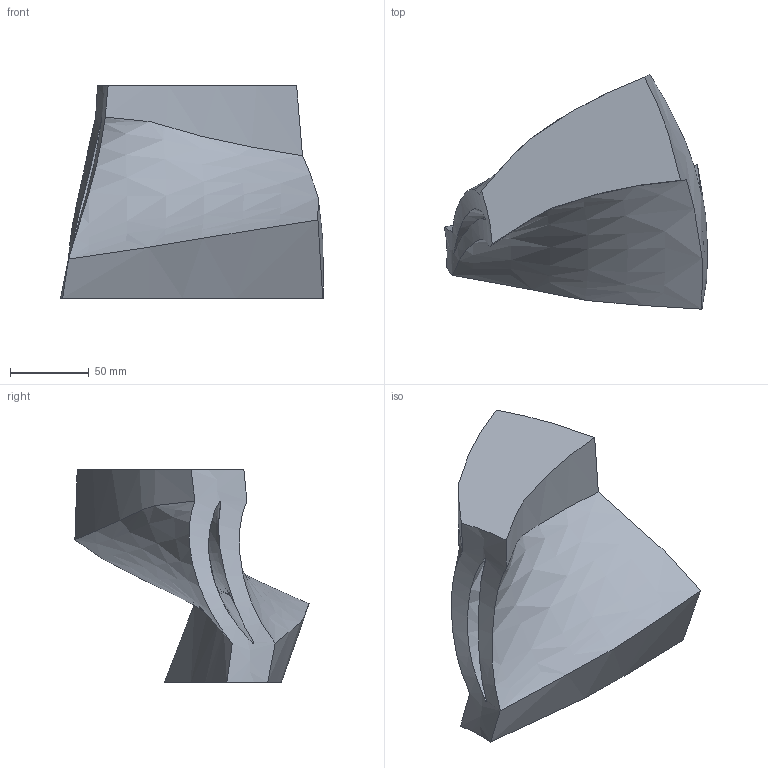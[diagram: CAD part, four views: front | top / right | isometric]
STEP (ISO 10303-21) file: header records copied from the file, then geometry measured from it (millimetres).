
FILE_DESCRIPTION (( 'STEP AP203' ), '1' );
FILE_NAME ('rotor67_tipGap.STEP', '2015-08-11T10:57:26', ( '' ), ( '' ), 'SwSTEP 2.0', 'SolidWorks 2015', '' );
FILE_SCHEMA (( 'CONFIG_CONTROL_DESIGN' ));
Length unit declared in the file: millimetre
Products named in the file (1): rotor67_tipGap
Bounding box: 166.96 x 148.71 x 134.84 mm (x, y, z)
Volume: 947235.9 mm3; surface area: 103295 mm2
Topology: 1 solids, 1 shells, 13 faces, 50 edges, 40 vertices
Faces by surface type: bspline 11, plane 2
Entity records: 6249 total; most frequent: CARTESIAN_POINT 5860, ORIENTED_EDGE 100, EDGE_CURVE 50, B_SPLINE_CURVE_WITH_KNOTS 48, VERTEX_POINT 40, EDGE_LOOP 14, FACE_OUTER_BOUND 13, ADVANCED_FACE 13
